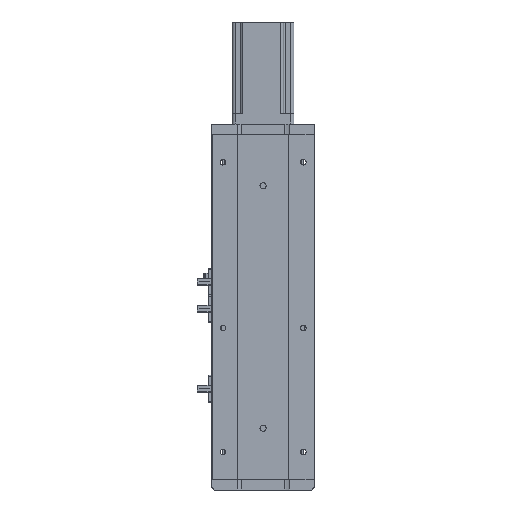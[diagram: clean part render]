
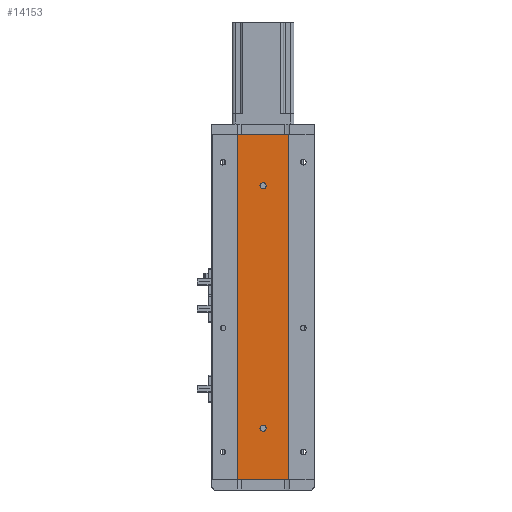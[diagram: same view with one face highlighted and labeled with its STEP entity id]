
A CAD part, left-side view. The second image highlights one B-rep face of the part: STEP entity #14153.
In plain terms, the highlighted planar face has unit normal (-1, 0, 0).
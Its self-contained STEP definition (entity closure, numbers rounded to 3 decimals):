
#872 = EDGE_CURVE ( 'NONE', #30399, #25916, #23786, .T. ) ;
#1072 = ORIENTED_EDGE ( 'NONE', *, *, #28390, .T. ) ;
#1605 = ORIENTED_EDGE ( 'NONE', *, *, #18290, .F. ) ;
#2108 = CARTESIAN_POINT ( 'NONE',  ( -18.926, 0., 285. ) ) ;
#2539 = EDGE_CURVE ( 'NONE', #19983, #25678, #13255, .T. ) ;
#2702 = VECTOR ( 'NONE', #10333, 1000. ) ;
#2867 = VECTOR ( 'NONE', #20820, 1000. ) ;
#2954 = ORIENTED_EDGE ( 'NONE', *, *, #872, .F. ) ;
#3640 = LINE ( 'NONE', #10549, #2867 ) ;
#4631 = DIRECTION ( 'NONE',  ( 0., 0., 1. ) ) ;
#4699 = CIRCLE ( 'NONE', #30850, 3. ) ;
#5581 = EDGE_LOOP ( 'NONE', ( #31529, #10387 ) ) ;
#6513 = EDGE_CURVE ( 'NONE', #19018, #13210, #4699, .T. ) ;
#6646 = DIRECTION ( 'NONE',  ( 0., 0., 1. ) ) ;
#6888 = CARTESIAN_POINT ( 'NONE',  ( -18.926, 24.785, 0. ) ) ;
#7837 = AXIS2_PLACEMENT_3D ( 'NONE', #25345, #10014, #27905 ) ;
#8410 = CARTESIAN_POINT ( 'NONE',  ( -18.926, 24.785, 335. ) ) ;
#8517 = FACE_BOUND ( 'NONE', #5581, .T. ) ;
#8919 = EDGE_CURVE ( 'NONE', #13210, #19018, #23147, .T. ) ;
#9141 = CARTESIAN_POINT ( 'NONE',  ( -18.926, 0., 285. ) ) ;
#9318 = AXIS2_PLACEMENT_3D ( 'NONE', #2108, #19884, #4631 ) ;
#9656 = DIRECTION ( 'NONE',  ( -1., 0., 0. ) ) ;
#10014 = DIRECTION ( 'NONE',  ( 1., 0., 0. ) ) ;
#10333 = DIRECTION ( 'NONE',  ( 0., -1., 0. ) ) ;
#10375 = EDGE_LOOP ( 'NONE', ( #19490, #1605, #2954, #1072 ) ) ;
#10387 = ORIENTED_EDGE ( 'NONE', *, *, #25797, .F. ) ;
#10549 = CARTESIAN_POINT ( 'NONE',  ( -18.926, -24.785, 335. ) ) ;
#11053 = CARTESIAN_POINT ( 'NONE',  ( -18.926, 24.785, 335. ) ) ;
#11057 = DIRECTION ( 'NONE',  ( 0., -1., 0. ) ) ;
#11745 = DIRECTION ( 'NONE',  ( 0., 0., 1. ) ) ;
#12016 = CIRCLE ( 'NONE', #26018, 3. ) ;
#12515 = LINE ( 'NONE', #8410, #18519 ) ;
#13059 = CARTESIAN_POINT ( 'NONE',  ( -18.926, 24.785, 0. ) ) ;
#13210 = VERTEX_POINT ( 'NONE', #18226 ) ;
#13255 = LINE ( 'NONE', #6888, #26872 ) ;
#14007 = ORIENTED_EDGE ( 'NONE', *, *, #8919, .F. ) ;
#14153 = ADVANCED_FACE ( 'NONE', ( #15291, #8517, #28109 ), #32960, .F. ) ;
#15193 = DIRECTION ( 'NONE',  ( -1., 0., 0. ) ) ;
#15241 = VERTEX_POINT ( 'NONE', #19618 ) ;
#15291 = FACE_BOUND ( 'NONE', #21498, .T. ) ;
#18226 = CARTESIAN_POINT ( 'NONE',  ( -18.926, 0., 47. ) ) ;
#18290 = EDGE_CURVE ( 'NONE', #25916, #25678, #3640, .T. ) ;
#18502 = CARTESIAN_POINT ( 'NONE',  ( -18.926, 0., 288. ) ) ;
#18519 = VECTOR ( 'NONE', #21139, 1000. ) ;
#19018 = VERTEX_POINT ( 'NONE', #29497 ) ;
#19490 = ORIENTED_EDGE ( 'NONE', *, *, #2539, .T. ) ;
#19618 = CARTESIAN_POINT ( 'NONE',  ( -18.926, 0., 282. ) ) ;
#19884 = DIRECTION ( 'NONE',  ( -1., 0., 0. ) ) ;
#19983 = VERTEX_POINT ( 'NONE', #13059 ) ;
#20229 = EDGE_CURVE ( 'NONE', #29549, #15241, #12016, .T. ) ;
#20357 = CARTESIAN_POINT ( 'NONE',  ( -18.926, 24.785, 335. ) ) ;
#20367 = ORIENTED_EDGE ( 'NONE', *, *, #6513, .F. ) ;
#20820 = DIRECTION ( 'NONE',  ( 0., 0., -1. ) ) ;
#21139 = DIRECTION ( 'NONE',  ( 0., 0., -1. ) ) ;
#21498 = EDGE_LOOP ( 'NONE', ( #20367, #14007 ) ) ;
#21736 = AXIS2_PLACEMENT_3D ( 'NONE', #24969, #9656, #27532 ) ;
#21799 = CARTESIAN_POINT ( 'NONE',  ( -18.926, -24.785, 0. ) ) ;
#23147 = CIRCLE ( 'NONE', #21736, 3. ) ;
#23541 = CARTESIAN_POINT ( 'NONE',  ( -18.926, 0., 50. ) ) ;
#23786 = LINE ( 'NONE', #11053, #2702 ) ;
#24969 = CARTESIAN_POINT ( 'NONE',  ( -18.926, 0., 50. ) ) ;
#25345 = CARTESIAN_POINT ( 'NONE',  ( -18.926, 24.785, 335. ) ) ;
#25678 = VERTEX_POINT ( 'NONE', #21799 ) ;
#25797 = EDGE_CURVE ( 'NONE', #15241, #29549, #31560, .T. ) ;
#25916 = VERTEX_POINT ( 'NONE', #30636 ) ;
#26018 = AXIS2_PLACEMENT_3D ( 'NONE', #9141, #27047, #11745 ) ;
#26872 = VECTOR ( 'NONE', #11057, 1000. ) ;
#27047 = DIRECTION ( 'NONE',  ( -1., 0., 0. ) ) ;
#27532 = DIRECTION ( 'NONE',  ( 0., 0., 1. ) ) ;
#27905 = DIRECTION ( 'NONE',  ( 0., 0., -1. ) ) ;
#28109 = FACE_OUTER_BOUND ( 'NONE', #10375, .T. ) ;
#28390 = EDGE_CURVE ( 'NONE', #30399, #19983, #12515, .T. ) ;
#29497 = CARTESIAN_POINT ( 'NONE',  ( -18.926, 0., 53. ) ) ;
#29549 = VERTEX_POINT ( 'NONE', #18502 ) ;
#30399 = VERTEX_POINT ( 'NONE', #20357 ) ;
#30636 = CARTESIAN_POINT ( 'NONE',  ( -18.926, -24.785, 335. ) ) ;
#30850 = AXIS2_PLACEMENT_3D ( 'NONE', #23541, #15193, #6646 ) ;
#31529 = ORIENTED_EDGE ( 'NONE', *, *, #20229, .F. ) ;
#31560 = CIRCLE ( 'NONE', #9318, 3. ) ;
#32960 = PLANE ( 'NONE',  #7837 ) ;
